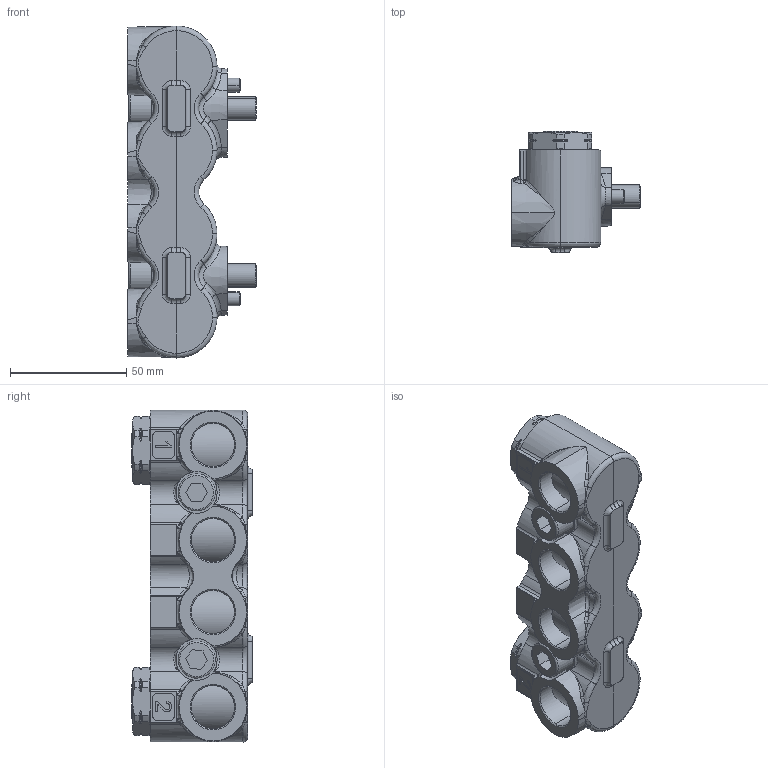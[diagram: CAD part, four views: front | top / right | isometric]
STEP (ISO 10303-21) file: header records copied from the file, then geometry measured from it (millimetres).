
FILE_DESCRIPTION (( 'STEP AP214' ), '1' );
FILE_NAME ('P7318-2A.STEP', '2023-05-25T09:05:17', ( '' ), ( '' ), 'SwSTEP 2.0', 'SolidWorks 2021', '' );
FILE_SCHEMA (( 'AUTOMOTIVE_DESIGN' ));
Length unit declared in the file: millimetre
Products named in the file (1): P7318-2A
Bounding box: 55.5 x 52 x 143 mm (x, y, z)
Volume: 201528.1 mm3; surface area: 46809.8 mm2
Topology: 15 solids, 15 shells, 683 faces, 1678 edges, 1045 vertices
Faces by surface type: cylinder 188, bspline 155, cone 139, plane 137, torus 64
Entity records: 35719 total; most frequent: CARTESIAN_POINT 13244, ORIENTED_EDGE 3348, DIRECTION 2793, EDGE_CURVE 1674, AXIS2_PLACEMENT_3D 1157, VERTEX_POINT 1045, EDGE_LOOP 719, UNCERTAINTY_MEASURE_WITH_UNIT 700
